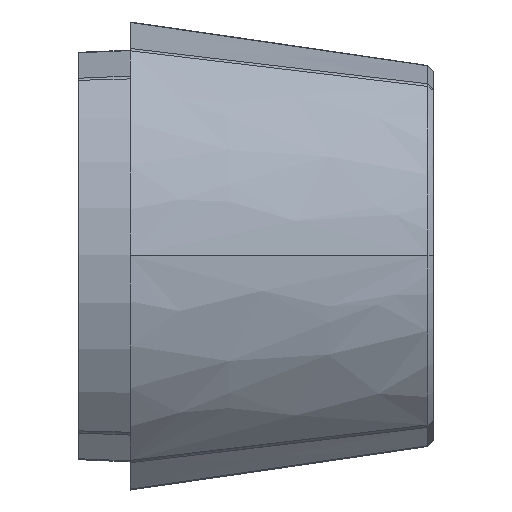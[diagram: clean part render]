
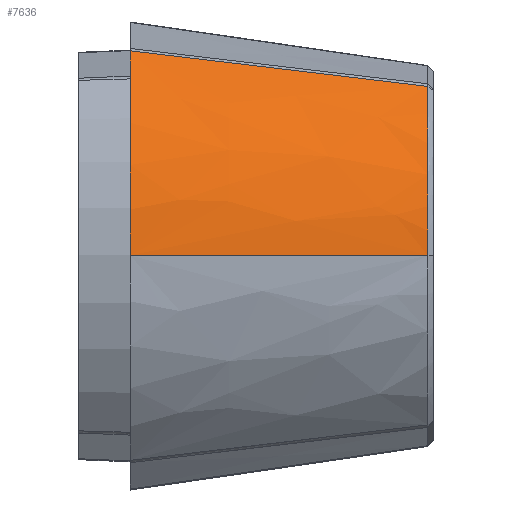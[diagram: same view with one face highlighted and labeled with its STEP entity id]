
A CAD part, top view. The second image highlights one B-rep face of the part: STEP entity #7636.
In plain terms, the highlighted free-form (B-spline) face has degree [3, 3] with [7, 4] control points.
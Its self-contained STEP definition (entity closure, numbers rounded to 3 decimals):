
#1288=DIRECTION('',(-0.988,0.,0.153));
#1289=VECTOR('',#1288,55.666);
#1290=CARTESIAN_POINT('',(55.013,0.,51.998));
#1291=LINE('',#1290,#1289);
#1666=CARTESIAN_POINT('',(55.009,31.268,38.516));
#1667=CARTESIAN_POINT('',(55.009,29.782,40.091));
#1668=CARTESIAN_POINT('',(55.012,26.65,42.935));
#1669=CARTESIAN_POINT('',(55.01,21.556,46.37));
#1670=CARTESIAN_POINT('',(55.013,16.159,48.99));
#1671=CARTESIAN_POINT('',(55.008,10.703,50.771));
#1672=CARTESIAN_POINT('',(55.012,5.308,51.783));
#1673=CARTESIAN_POINT('',(55.015,1.746,51.998));
#1674=CARTESIAN_POINT('',(55.013,0.,51.998));
#1784=DIRECTION('',(-0.989,0.118,0.093));
#1785=VECTOR('',#1784,55.641);
#1786=CARTESIAN_POINT('',(55.009,31.268,38.516));
#1787=LINE('',#1786,#1785);
#1888=CARTESIAN_POINT('',(0.,0.,9.5));
#1889=DIRECTION('',(-1.,0.,0.));
#1890=DIRECTION('',(0.,0.,1.));
#1891=AXIS2_PLACEMENT_3D('',#1888,#1889,#1890);
#5452=CARTESIAN_POINT('',(55.013,0.,51.998));
#5453=CARTESIAN_POINT('',(0.,0.,60.5));
#5454=VERTEX_POINT('',#5452);
#5455=VERTEX_POINT('',#5453);
#5872=CARTESIAN_POINT('',(0.,37.822,43.712));
#5873=VERTEX_POINT('',#5872);
#5914=CARTESIAN_POINT('',(55.009,31.268,38.516));
#5916=VERTEX_POINT('',#5914);
#7600=CARTESIAN_POINT('',(56.113,-0.7,
51.822));
#7601=CARTESIAN_POINT('',(37.042,-0.752,
54.769));
#7602=CARTESIAN_POINT('',(17.971,-0.803,
57.716));
#7603=CARTESIAN_POINT('',(-1.1,-0.855,
60.663));
#7604=CARTESIAN_POINT('',(56.113,-0.467,
51.826));
#7605=CARTESIAN_POINT('',(37.042,-0.501,
54.773));
#7606=CARTESIAN_POINT('',(17.971,-0.536,
57.72));
#7607=CARTESIAN_POINT('',(-1.1,-0.57,
60.668));
#7608=CARTESIAN_POINT('',(56.113,5.6,51.876));
#7609=CARTESIAN_POINT('',(37.042,6.014,54.827));
#7610=CARTESIAN_POINT('',(17.971,6.428,57.779));
#7611=CARTESIAN_POINT('',(-1.1,6.841,60.73));
#7612=CARTESIAN_POINT('',(56.113,17.497,49.412));
#7613=CARTESIAN_POINT('',(37.042,18.79,52.157));
#7614=CARTESIAN_POINT('',(17.971,20.083,54.903));
#7615=CARTESIAN_POINT('',(-1.1,21.375,57.648));
#7616=CARTESIAN_POINT('',(56.113,27.437,42.424));
#7617=CARTESIAN_POINT('',(37.042,29.427,44.594));
#7618=CARTESIAN_POINT('',(17.971,31.418,46.763));
#7619=CARTESIAN_POINT('',(-1.1,33.408,48.933));
#7620=CARTESIAN_POINT('',(56.113,31.552,37.966));
#7621=CARTESIAN_POINT('',(37.042,33.812,39.775));
#7622=CARTESIAN_POINT('',(17.971,36.072,41.584));
#7623=CARTESIAN_POINT('',(-1.1,38.332,43.394));
#7624=CARTESIAN_POINT('',(56.113,31.709,37.794));
#7625=CARTESIAN_POINT('',(37.042,33.979,39.589));
#7626=CARTESIAN_POINT('',(17.971,36.25,41.384));
#7627=CARTESIAN_POINT('',(-1.1,38.52,43.179));
#7628=B_SPLINE_SURFACE_WITH_KNOTS('',3,3,((#7600,#7601,#7602,#7603),(#7604,
#7605,#7606,#7607),(#7608,#7609,#7610,#7611),(#7612,#7613,#7614,#7615),(#7616,
#7617,#7618,#7619),(#7620,#7621,#7622,#7623),(#7624,#7625,#7626,#7627)),
.UNSPECIFIED.,.F.,.F.,.F.,(4,1,1,1,4),(4,4),(-0.02,0.,0.5,1.,1.02),(
-0.002,1.02),.UNSPECIFIED.);
#7629=ORIENTED_EDGE('',*,*,#7593,.F.);
#7630=ORIENTED_EDGE('',*,*,#7174,.T.);
#7631=ORIENTED_EDGE('',*,*,#6425,.T.);
#7633=ORIENTED_EDGE('',*,*,#7632,.T.);
#7634=EDGE_LOOP('',(#7629,#7630,#7631,#7633));
#7635=FACE_OUTER_BOUND('',#7634,.F.);
#7636=ADVANCED_FACE('',(#7635),#7628,.T.);
#1675=B_SPLINE_CURVE_WITH_KNOTS('',3,(#1666,#1667,#1668,#1669,#1670,#1671,#1672,
#1673,#1674),.UNSPECIFIED.,.F.,.F.,(4,1,1,1,1,1,4),(0.,0.167,
0.333,0.5,0.667,0.833,1.),
.UNSPECIFIED.);
#1892=CIRCLE('',#1891,51.);
#6425=EDGE_CURVE('',#5454,#5455,#1291,.T.);
#7174=EDGE_CURVE('',#5916,#5454,#1675,.T.);
#7593=EDGE_CURVE('',#5916,#5873,#1787,.T.);
#7632=EDGE_CURVE('',#5455,#5873,#1892,.T.);
